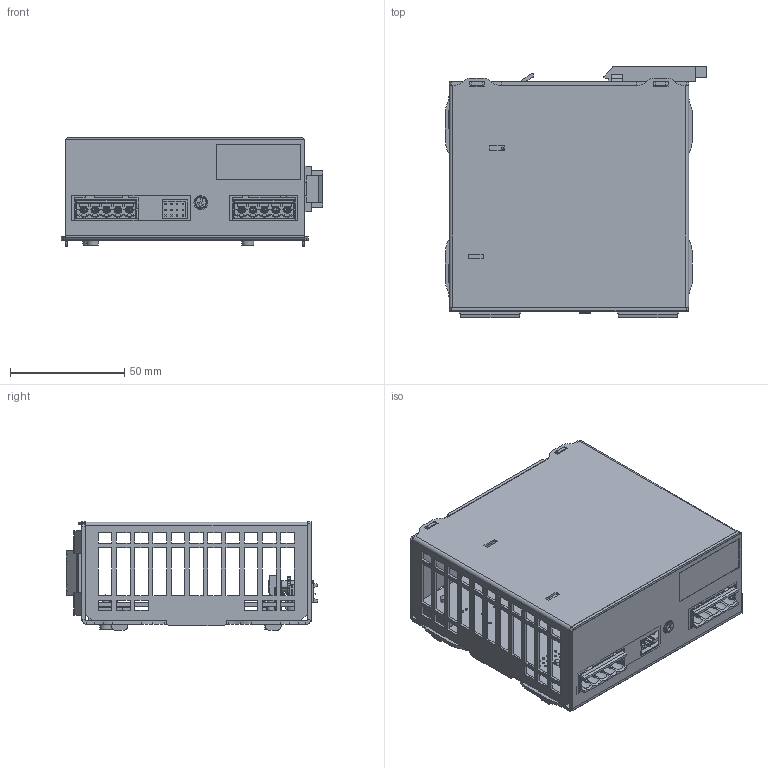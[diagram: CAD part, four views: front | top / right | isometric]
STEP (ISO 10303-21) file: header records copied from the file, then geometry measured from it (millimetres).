
FILE_DESCRIPTION((''),'2;1');
FILE_NAME('M:\Disegni\Progetti\1_5 Carica Batterie\CB12245A\Immagini & Rendering\151201 CB12245A Complete Drawings 2D-3D\CB12245A_Assenbly.stp','2015-12-01T16:47:06',('Tecnico2'),(''),'Autodesk Inventor 2012','Autodesk Inventor 2012','');
FILE_SCHEMA(('AUTOMOTIVE_DESIGN { 1 0 10303 214 1 1 1 1 }'));
Products named in the file (21): CB12245A_Assenbly; M3M_00F_041_A2_Fondo; SOS-440-4; M3M_00C_041_Coperchio; M4D_105_436_Etichetta_Massera; A24_323_224A5R1_Master_Assemblato; A24_323_224A5R1_Master; Strip 3P_4; SAURO 5P p.5.0 COM059P1; S1-01-012_5; S19-00-009; SAURO 3P p.10 COM039P2; Led OSRAM LS A670; Perno Trimmer Piccolo; Potenziometro CA9H2.5 Verticale; PST-4; Screw GB_T 2171.1 M3 x 6; Screw GB_T 2171.1 M3 x 13 Autofilettante; Dissipatore MHN.255.060; MGP.451.90MA5_Gancio Din
Assembly tree (32 placements, depth 4):
  CB12245A_Assenbly
    M3M_00F_041_A2_Fondo
      M3M_00F_041_A2_Fondo
      SOS-440-4
    M3M_00C_041_Coperchio
    M4D_105_436_Etichetta_Massera
    A24_323_224A5R1_Master_Assemblato
      A24_323_224A5R1_Master
      Strip 3P_4
      SAURO 5P p.5.0 COM059P1
        S1-01-012_5
        S19-00-009  x5
      SAURO 3P p.10 COM039P2
        S1-01-012_5
        S19-00-009  x3
      Led OSRAM LS A670  x2
      Perno Trimmer Piccolo
      Potenziometro CA9H2.5 Verticale
    PST-4
    Screw GB_T 2171.1 M3 x 6
    Screw GB_T 2171.1 M3 x 13 Autofilettante  x3
    Dissipatore MHN.255.060  x2
    MGP.451.90MA5_Gancio Din
Bounding box: 114.5 x 110.21 x 47.6 mm (x, y, z)
Volume: 69364.3 mm3; surface area: 111797.6 mm2
Topology: 52 solids, 54 shells, 3250 faces, 8662 edges, 5508 vertices
Faces by surface type: plane 1916, cylinder 902, torus 206, bspline 130, sphere 53, cone 43
Full cylindrical faces by diameter (mm): 1 x102, 1.5 x5, 2.4 x2, 2.464 x1, 2.5 x2, 2.675 x4, 2.75 x10, 2.8 x2, 3 x4, 3.1 x2, 3.2 x2, 3.3 x2, 3.5 x1, 3.8 x1, 4.3 x2, 5 x5, 5.594 x1, 6 x5, 9 x1
Entity records: 59815 total; most frequent: CARTESIAN_POINT 11103, ORIENTED_EDGE 9760, DIRECTION 9608, EDGE_CURVE 4884, VECTOR 3812, LINE 3812, VERTEX_POINT 3241, AXIS2_PLACEMENT_3D 2898
